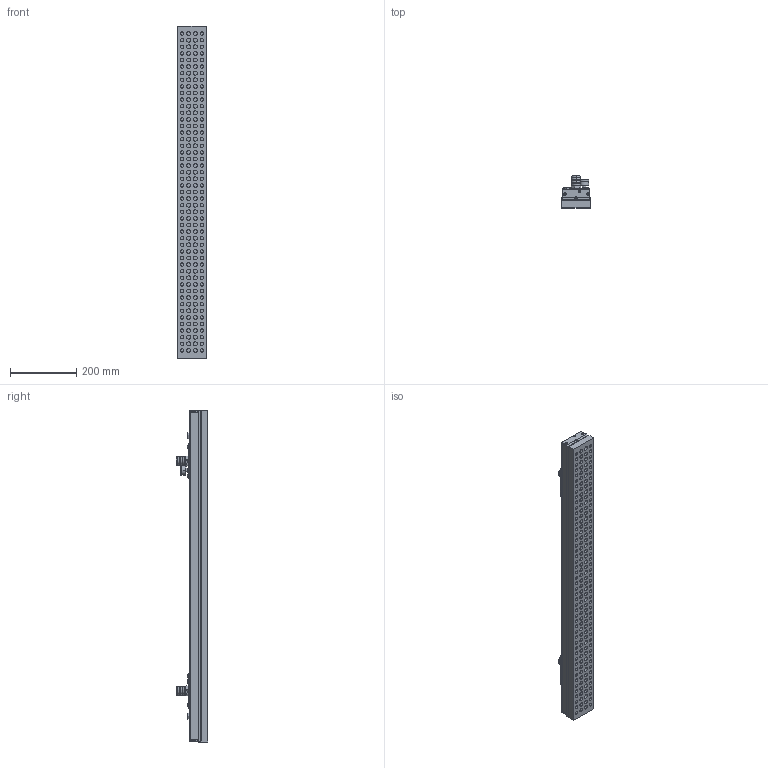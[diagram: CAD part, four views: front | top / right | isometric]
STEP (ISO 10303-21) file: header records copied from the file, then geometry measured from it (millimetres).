
FILE_DESCRIPTION (( 'STEP AP214' ), '1' );
FILE_NAME ('9671 100 010.STEP', '2012-09-10T05:45:38', ( 'cad' ), ( 'Microsoft' ), 'SwSTEP 2.0', 'SolidWorks 2012', '' );
FILE_SCHEMA (( 'AUTOMOTIVE_DESIGN' ));
Length unit declared in the file: millimetre
Products named in the file (1): 9671 100 010
Bounding box: 86 x 96.5 x 1006 mm (x, y, z)
Volume: 4262066.1 mm3; surface area: 505499.2 mm2
Topology: 1 solids, 1 shells, 1049 faces, 2248 edges, 1452 vertices
Faces by surface type: cylinder 512, plane 389, cone 64, sphere 32, torus 32, bspline 20
Entity records: 34899 total; most frequent: CARTESIAN_POINT 6222, DIRECTION 5488, ORIENTED_EDGE 4496, AXIS2_PLACEMENT_3D 2326, EDGE_CURVE 2248, VERTEX_POINT 1452, EDGE_LOOP 1304, CIRCLE 1296
